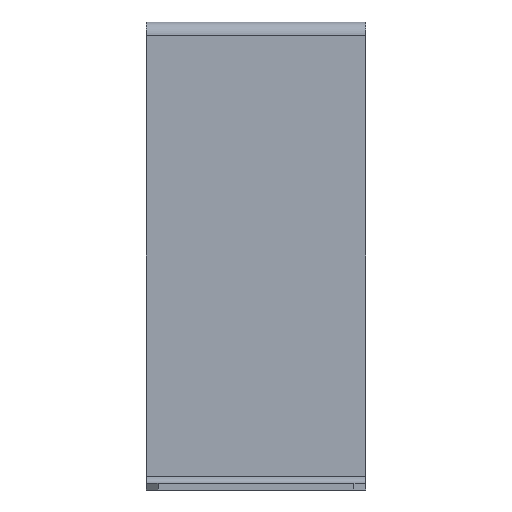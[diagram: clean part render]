
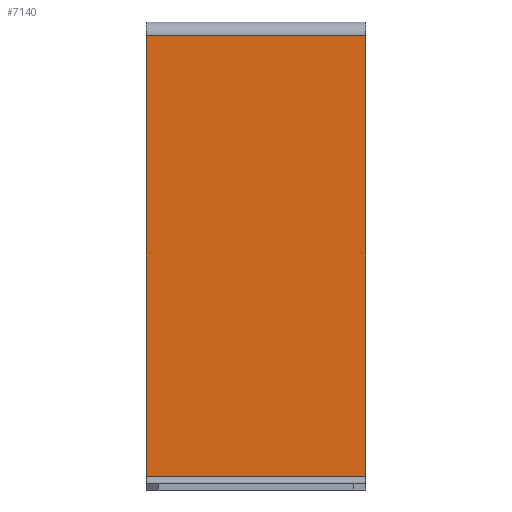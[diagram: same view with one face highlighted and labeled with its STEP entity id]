
A CAD part, left-side view. The second image highlights one B-rep face of the part: STEP entity #7140.
In plain terms, the highlighted planar face has unit normal (-1, 0, 0).
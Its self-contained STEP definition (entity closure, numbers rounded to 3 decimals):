
#6140=CARTESIAN_POINT('',(152.189,0.,-6.5));
#6150=DIRECTION('',(0.,1.,0.));
#6160=VECTOR('',#6150,1.);
#6170=LINE('',#6140,#6160);
#6180=CARTESIAN_POINT('',(152.189,0.,-6.5));
#6190=VERTEX_POINT('',#6180);
#6200=CARTESIAN_POINT('',(152.189,95.,-6.5));
#6210=VERTEX_POINT('',#6200);
#6220=EDGE_CURVE('',#6190,#6210,#6170,.T.);
#6610=CARTESIAN_POINT('',(152.189,0.,-197.5));
#6620=VERTEX_POINT('',#6610);
#6800=CARTESIAN_POINT('',(152.189,95.,-197.5));
#6810=VERTEX_POINT('',#6800);
#6840=CARTESIAN_POINT('',(152.189,0.,-197.5));
#6850=DIRECTION('',(0.,-1.,0.));
#6860=VECTOR('',#6850,1.);
#6870=LINE('',#6840,#6860);
#6880=EDGE_CURVE('',#6810,#6620,#6870,.T.);
#6930=CARTESIAN_POINT('',(152.189,141.,-223.822));
#6940=DIRECTION('',(-1.,0.,0.));
#6950=DIRECTION('',(0.,0.,1.));
#6960=AXIS2_PLACEMENT_3D('',#6930,#6940,#6950);
#6970=PLANE('',#6960);
#6980=CARTESIAN_POINT('',(152.189,95.,150.457));
#6990=DIRECTION('',(0.,0.,1.));
#7000=VECTOR('',#6990,1.);
#7010=LINE('',#6980,#7000);
#7020=EDGE_CURVE('',#6810,#6210,#7010,.T.);
#7030=ORIENTED_EDGE('',*,*,#7020,.F.);
#7040=ORIENTED_EDGE('',*,*,#6220,.T.);
#7050=CARTESIAN_POINT('',(152.189,0.,150.457));
#7060=DIRECTION('',(0.,0.,-1.));
#7070=VECTOR('',#7060,1.);
#7080=LINE('',#7050,#7070);
#7090=EDGE_CURVE('',#6190,#6620,#7080,.T.);
#7100=ORIENTED_EDGE('',*,*,#7090,.F.);
#7110=ORIENTED_EDGE('',*,*,#6880,.T.);
#7120=EDGE_LOOP('',(#7110,#7100,#7040,#7030));
#7130=FACE_OUTER_BOUND('',#7120,.T.);
#7140=ADVANCED_FACE('',(#7130),#6970,.T.);
